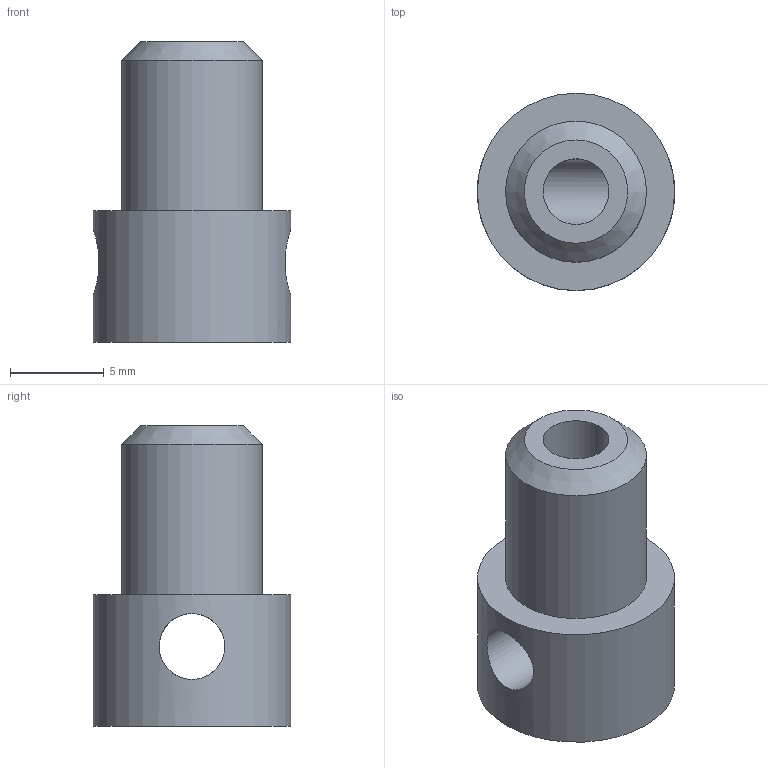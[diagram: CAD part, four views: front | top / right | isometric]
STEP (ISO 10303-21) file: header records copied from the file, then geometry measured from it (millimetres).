
FILE_DESCRIPTION( ( '' ), ' ' );
FILE_NAME( '/vol/tmp/translate-8468267052882540559/5dc6e35094333712756289d2.step', '2019-11-09T16:03:28', ( '' ), ( '' ), ' ', ' ', ' ' );
FILE_SCHEMA( ( 'AUTOMOTIVE_DESIGN { 1 0 10303 214 1 1 1 1 }' ) );
Length unit declared in the file: metre
Products named in the file (1): Part 1
Bounding box: 10.5 x 10.5 x 16 mm (x, y, z)
Volume: 757.1 mm3; surface area: 824.1 mm2
Topology: 1 solids, 1 shells, 12 faces, 24 edges, 16 vertices
Faces by surface type: cylinder 6, plane 5, cone 1
Full cylindrical faces by diameter (mm): 3.5 x3, 7.5 x1, 7.75 x1, 10.5 x1
Entity records: 488 total; most frequent: CARTESIAN_POINT 151, DIRECTION 50, ORIENTED_EDGE 28, EDGE_LOOP 26, AXIS2_PLACEMENT_3D 25, FACE_OUTER_BOUND 18, EDGE_CURVE 14, VERTEX_POINT 14
